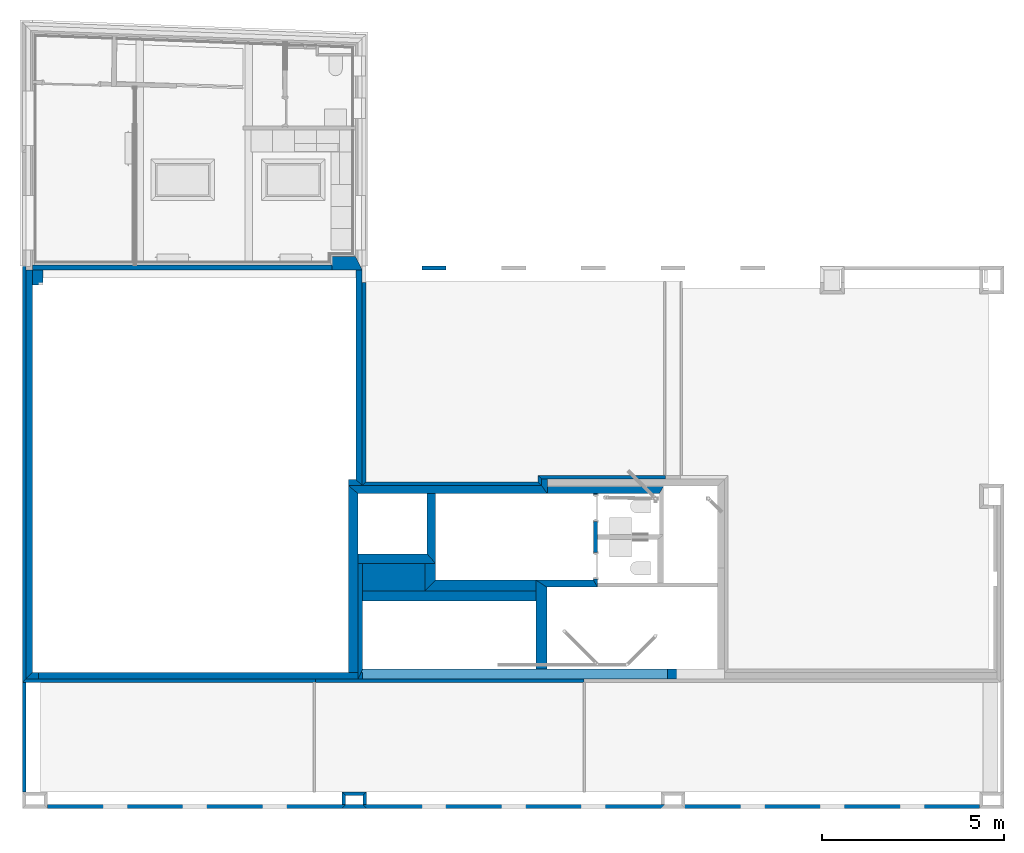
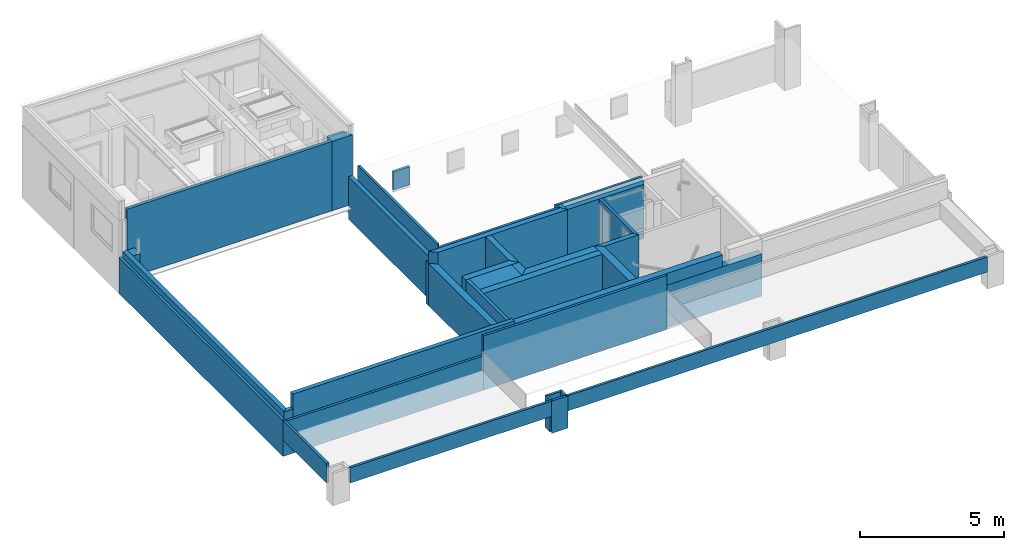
# One storey, part 2 of 22: 38 walls, 2 openings.
"""IFC2X3 building model written with IfcOpenShell, lengths in metres."""

from ifc_helpers import new_model, entity, si_unit, converted_unit, derived_unit, money_unit, direction, frame, frame_2d, origin_with_axes, place, context, subcontext, project, spatial, polyline, rectangle, outline, extrude, material, layer, layer_set, layer_usage, type_object, element, save


model = new_model("IFC2X3")

# Units and contexts
model_context = context("Model", 3, precision=1e-05, world=origin_with_axes(), true_north=direction((0.0, 1.0)))
body_context = subcontext(model_context, "Body", "Model", "MODEL_VIEW", scale=1.0)
ifc_project = project(units=[si_unit("LENGTHUNIT", "METRE"), si_unit("AREAUNIT", "SQUARE_METRE"), si_unit("VOLUMEUNIT", "CUBIC_METRE"), si_unit("ABSORBEDDOSEUNIT", "GRAY"), si_unit("AMOUNTOFSUBSTANCEUNIT", "MOLE"), si_unit("DOSEEQUIVALENTUNIT", "SIEVERT"), si_unit("ELECTRICCAPACITANCEUNIT", "FARAD"), si_unit("ELECTRICCHARGEUNIT", "COULOMB"), si_unit("ELECTRICCONDUCTANCEUNIT", "SIEMENS"), si_unit("ELECTRICCURRENTUNIT", "AMPERE"), si_unit("ELECTRICRESISTANCEUNIT", "OHM"), si_unit("ELECTRICVOLTAGEUNIT", "VOLT"), si_unit("ENERGYUNIT", "JOULE"), si_unit("FORCEUNIT", "NEWTON"), si_unit("FREQUENCYUNIT", "HERTZ"), si_unit("ILLUMINANCEUNIT", "LUX"), si_unit("INDUCTANCEUNIT", "HENRY"), si_unit("LUMINOUSFLUXUNIT", "LUMEN"), si_unit("LUMINOUSINTENSITYUNIT", "CANDELA"), si_unit("MAGNETICFLUXDENSITYUNIT", "TESLA"), si_unit("MAGNETICFLUXUNIT", "WEBER"), si_unit("MASSUNIT", "GRAM"), converted_unit("PLANEANGLEUNIT", "degree", entity("IfcReal", 0.0174532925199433), si_unit("PLANEANGLEUNIT", "RADIAN"), dimensions=[0, 0, 0, 0, 0, 0, 0]), si_unit("POWERUNIT", "WATT"), si_unit("PRESSUREUNIT", "PASCAL"), si_unit("RADIOACTIVITYUNIT", "BECQUEREL"), si_unit("SOLIDANGLEUNIT", "STERADIAN"), si_unit("THERMODYNAMICTEMPERATUREUNIT", "KELVIN"), si_unit("TIMEUNIT", "SECOND"), derived_unit("ACCELERATIONUNIT", [(si_unit("LENGTHUNIT", "METRE"), 1), (si_unit("TIMEUNIT", "SECOND"), -2)]), derived_unit("ANGULARVELOCITYUNIT", [(converted_unit("PLANEANGLEUNIT", "degree", entity("IfcReal", 0.0174532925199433), si_unit("PLANEANGLEUNIT", "RADIAN"), dimensions=[0, 0, 0, 0, 0, 0, 0]), 1), (si_unit("TIMEUNIT", "SECOND"), -1)]), derived_unit("CURVATUREUNIT", [(converted_unit("PLANEANGLEUNIT", "degree", entity("IfcReal", 0.0174532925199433), si_unit("PLANEANGLEUNIT", "RADIAN"), dimensions=[0, 0, 0, 0, 0, 0, 0]), 1), (si_unit("LENGTHUNIT", "METRE"), -1)]), derived_unit("DYNAMICVISCOSITYUNIT", [(si_unit("PRESSUREUNIT", "PASCAL"), 1), (si_unit("TIMEUNIT", "SECOND"), 1)]), derived_unit("HEATFLUXDENSITYUNIT", [(si_unit("POWERUNIT", "WATT"), 1), (si_unit("LENGTHUNIT", "METRE"), -2)]), derived_unit("HEATINGVALUEUNIT", [(si_unit("ENERGYUNIT", "JOULE"), 1), (si_unit("MASSUNIT", "GRAM"), -1)]), derived_unit("INTEGERCOUNTRATEUNIT", [(si_unit("TIMEUNIT", "SECOND"), -1)]), derived_unit("IONCONCENTRATIONUNIT", [(si_unit("MASSUNIT", "GRAM"), 1), (si_unit("VOLUMEUNIT", "CUBIC_METRE"), -1)]), derived_unit("ISOTHERMALMOISTURECAPACITYUNIT", [(si_unit("VOLUMEUNIT", "CUBIC_METRE"), 1), (si_unit("MASSUNIT", "GRAM"), -1)]), derived_unit("KINEMATICVISCOSITYUNIT", [(si_unit("AREAUNIT", "SQUARE_METRE"), 1), (si_unit("TIMEUNIT", "SECOND"), -1)]), derived_unit("LINEARFORCEUNIT", [(si_unit("FORCEUNIT", "NEWTON"), 1), (si_unit("LENGTHUNIT", "METRE"), -1)]), derived_unit("LINEARMOMENTUNIT", [(si_unit("FORCEUNIT", "NEWTON"), 1), (si_unit("LENGTHUNIT", "METRE"), -1)]), derived_unit("LINEARSTIFFNESSUNIT", [(si_unit("FORCEUNIT", "NEWTON"), 1), (si_unit("LENGTHUNIT", "METRE"), -1)]), derived_unit("LINEARVELOCITYUNIT", [(si_unit("LENGTHUNIT", "METRE"), 1), (si_unit("TIMEUNIT", "SECOND"), -1)]), derived_unit("LUMINOUSINTENSITYDISTRIBUTIONUNIT", [(si_unit("LUMINOUSINTENSITYUNIT", "CANDELA"), 1), (si_unit("LUMINOUSFLUXUNIT", "LUMEN"), -1)]), derived_unit("MASSDENSITYUNIT", [(si_unit("MASSUNIT", "GRAM"), 1), (si_unit("VOLUMEUNIT", "CUBIC_METRE"), -1)]), derived_unit("MASSFLOWRATEUNIT", [(si_unit("MASSUNIT", "GRAM"), 1), (si_unit("TIMEUNIT", "SECOND"), -1)]), derived_unit("MASSPERLENGTHUNIT", [(si_unit("MASSUNIT", "GRAM"), 1), (si_unit("LENGTHUNIT", "METRE"), -1)]), derived_unit("MODULUSOFELASTICITYUNIT", [(si_unit("FORCEUNIT", "NEWTON"), 1), (si_unit("AREAUNIT", "SQUARE_METRE"), -1)]), derived_unit("MODULUSOFLINEARSUBGRADEREACTIONUNIT", [(si_unit("FORCEUNIT", "NEWTON"), 1), (si_unit("LENGTHUNIT", "METRE"), -2)]), derived_unit("MODULUSOFROTATIONALSUBGRADEREACTIONUNIT", [(si_unit("FORCEUNIT", "NEWTON"), 1), (si_unit("LENGTHUNIT", "METRE"), 1)]), derived_unit("MODULUSOFSUBGRADEREACTIONUNIT", [(si_unit("FORCEUNIT", "NEWTON"), 1), (si_unit("VOLUMEUNIT", "CUBIC_METRE"), -1)]), derived_unit("MOISTUREDIFFUSIVITYUNIT", [(si_unit("VOLUMEUNIT", "CUBIC_METRE"), 1), (si_unit("TIMEUNIT", "SECOND"), -1)]), derived_unit("MOLECULARWEIGHTUNIT", [(si_unit("MASSUNIT", "GRAM"), 1), (si_unit("AMOUNTOFSUBSTANCEUNIT", "MOLE"), -1)]), derived_unit("PLANARFORCEUNIT", [(si_unit("FORCEUNIT", "NEWTON"), 1), (si_unit("LENGTHUNIT", "METRE"), -2)]), derived_unit("ROTATIONALFREQUENCYUNIT", [(si_unit("TIMEUNIT", "SECOND"), -1)]), derived_unit("ROTATIONALMASSUNIT", [(si_unit("MASSUNIT", "GRAM"), 1), (si_unit("LENGTHUNIT", "METRE"), 2)]), derived_unit("ROTATIONALSTIFFNESSUNIT", [(si_unit("FORCEUNIT", "NEWTON"), 1), (si_unit("LENGTHUNIT", "METRE"), 1), (converted_unit("PLANEANGLEUNIT", "degree", entity("IfcReal", 0.0174532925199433), si_unit("PLANEANGLEUNIT", "RADIAN"), dimensions=[0, 0, 0, 0, 0, 0, 0]), -1)]), derived_unit("SECTIONAREAINTEGRALUNIT", [(si_unit("LENGTHUNIT", "METRE"), 5)]), derived_unit("SECTIONMODULUSUNIT", [(si_unit("LENGTHUNIT", "METRE"), 3)]), derived_unit("SHEARMODULUSUNIT", [(si_unit("FORCEUNIT", "NEWTON"), 1), (si_unit("AREAUNIT", "SQUARE_METRE"), -1)]), derived_unit("SOUNDPOWERUNIT", [(si_unit("ENERGYUNIT", "JOULE"), 1), (si_unit("TIMEUNIT", "SECOND"), -1)]), derived_unit("SPECIFICHEATCAPACITYUNIT", [(si_unit("FORCEUNIT", "NEWTON"), 1), (si_unit("MASSUNIT", "GRAM"), -1), (si_unit("THERMODYNAMICTEMPERATUREUNIT", "KELVIN"), -1)]), derived_unit("TEMPERATUREGRADIENTUNIT", [(si_unit("THERMODYNAMICTEMPERATUREUNIT", "KELVIN"), 1), (si_unit("LENGTHUNIT", "METRE"), -1)]), derived_unit("THERMALADMITTANCEUNIT", [(si_unit("POWERUNIT", "WATT"), 1), (si_unit("AREAUNIT", "SQUARE_METRE"), -1), (si_unit("THERMODYNAMICTEMPERATUREUNIT", "KELVIN"), -1)]), derived_unit("THERMALCONDUCTANCEUNIT", [(si_unit("POWERUNIT", "WATT"), 1), (si_unit("LENGTHUNIT", "METRE"), -1), (si_unit("THERMODYNAMICTEMPERATUREUNIT", "KELVIN"), -1)]), derived_unit("THERMALEXPANSIONCOEFFICIENTUNIT", [(si_unit("THERMODYNAMICTEMPERATUREUNIT", "KELVIN"), -1)]), derived_unit("THERMALRESISTANCEUNIT", [(si_unit("AREAUNIT", "SQUARE_METRE"), 1), (si_unit("POWERUNIT", "WATT"), -1)]), derived_unit("THERMALTRANSMITTANCEUNIT", [(si_unit("POWERUNIT", "WATT"), 1), (si_unit("AREAUNIT", "SQUARE_METRE"), -1), (si_unit("THERMODYNAMICTEMPERATUREUNIT", "KELVIN"), -1)]), derived_unit("TORQUEUNIT", [(si_unit("FORCEUNIT", "NEWTON"), 1), (si_unit("LENGTHUNIT", "METRE"), 1)]), derived_unit("VAPORPERMEABILITYUNIT", [(si_unit("MASSUNIT", "GRAM"), 1), (si_unit("TIMEUNIT", "SECOND"), -1)]), derived_unit("VOLUMETRICFLOWRATEUNIT", [(si_unit("VOLUMEUNIT", "CUBIC_METRE"), 1), (si_unit("TIMEUNIT", "SECOND"), -1)]), derived_unit("WARPINGCONSTANTUNIT", [(si_unit("LENGTHUNIT", "METRE"), 6)]), derived_unit("WARPINGMOMENTUNIT", [(si_unit("FORCEUNIT", "NEWTON"), 1), (si_unit("LENGTHUNIT", "METRE"), 2)]), money_unit("GBP")], contexts=[model_context])

# Site, building, storey
site_placement = place(None, origin_with_axes())
site = spatial("IfcSite", under=ifc_project, at=site_placement, Name="Site", CompositionType="ELEMENT")
building_placement = place(site_placement, origin_with_axes())
building = spatial("IfcBuilding", under=site, at=building_placement, Name="Building01", CompositionType="ELEMENT")
storey_placement = place(building_placement, frame((0.0, 0.0, 2.6), z_axis=(0.0, 0.0, 1.0), x_axis=(1.0, 0.0, 0.0)))
storey = spatial("IfcBuildingStorey", under=building, at=storey_placement, Name="MF", CompositionType="ELEMENT", Elevation=2.6)

# Walls
ifc_material_1 = material(Name="A_BSUK_WallsExternal_Brick")
ifc_layer_1 = layer(ifc_material_1, 0.1, ventilated=False)
ifc_layer_set_1 = layer_set([ifc_layer_1])
ifc_layer_usage_1 = layer_usage(ifc_layer_set_1, "AXIS2", "POSITIVE", 0.0)
wall_type_1 = type_object("IfcWallType", Name="A-Walls-ExternalBrick", PredefinedType="NOTDEFINED")
wall_1_placement = place(storey_placement, frame((8.79, -0.000329, 0.0), z_axis=(0.0, 0.0, 1.0), x_axis=(1.0, 0.0, 0.0)))
element("IfcWallStandardCase", 1, at=wall_1_placement, inside=storey, type_object=wall_type_1, material=ifc_layer_usage_1, Name="A-Walls-ExternalBrick", ObjectType="A-Walls-ExternalBrick", context=body_context, shape_type="SweptSolid", body=[
    extrude(outline(polyline([(0.57, 0.1), (0.1, 0.1), (0.0, 0.0), (0.67, 0.0), (0.57, 0.1)])), origin_with_axes(), (0.0, 0.0, 1.0), 1.37),
])
wall_2_placement = place(storey_placement, frame((9.46, 0.1, 0.0), z_axis=(0.0, 0.0, 1.0), x_axis=(0.0, 1.0, 0.0)))
element("IfcWallStandardCase", 2, at=wall_2_placement, inside=storey, type_object=wall_type_1, material=ifc_layer_usage_1, Name="A-Walls-ExternalBrick", ObjectType="A-Walls-ExternalBrick", context=body_context, shape_type="SweptSolid", body=[
    extrude(outline(polyline([(0.249338, 0.1), (0.0, 0.1), (0.0, 0.0), (0.349338, 0.0), (0.249338, 0.1)])), origin_with_axes(), (0.0, 0.0, 1.0), 1.37),
])
wall_3_placement = place(storey_placement, frame((9.46, 0.449338, 0.0), z_axis=(0.0, 0.0, 1.0), x_axis=(-1.0, 0.0, 0.0)))
element("IfcWallStandardCase", 3, at=wall_3_placement, inside=storey, type_object=wall_type_1, material=ifc_layer_usage_1, Name="A-Walls-ExternalBrick", ObjectType="A-Walls-ExternalBrick", context=body_context, shape_type="SweptSolid", body=[
    extrude(outline(polyline([(0.57, 0.1), (0.1, 0.1), (0.0, 0.0), (0.67, 0.0), (0.57, 0.1)])), origin_with_axes(), (0.0, 0.0, 1.0), 1.37),
])
wall_4_placement = place(storey_placement, frame((8.79, 0.449338, 0.0), z_axis=(0.0, 0.0, 1.0), x_axis=(0.0, -1.0, 0.0)))
element("IfcWallStandardCase", 4, at=wall_4_placement, inside=storey, type_object=wall_type_1, material=ifc_layer_usage_1, Name="A-Walls-ExternalBrick", ObjectType="A-Walls-ExternalBrick", context=body_context, shape_type="SweptSolid", body=[
    extrude(outline(polyline([(0.349338, 0.1), (0.1, 0.1), (0.0, 0.0), (0.349338, 0.0), (0.349338, 0.1)])), origin_with_axes(), (0.0, 0.0, 1.0), 1.37),
])
wall_5_placement = place(storey_placement, frame((0.7, 0.0, 0.725), z_axis=(0.0, 0.0, 1.0), x_axis=(1.0, 0.0, 0.0)))
element("IfcWallStandardCase", 5, at=wall_5_placement, inside=storey, type_object=wall_type_1, material=ifc_layer_usage_1, Name="A-Walls-ExternalBrick", ObjectType="A-Walls-ExternalBrick", context=body_context, shape_type="SweptSolid", body=[
    extrude(rectangle(XDim=25.61, YDim=0.1, at=frame_2d((12.805, 0.05), x_axis=(-1.0, 0.0))), origin_with_axes(), (0.0, 0.0, 1.0), 0.645),
])
wall_6_placement = place(storey_placement, frame((10.98, 14.9, 0.599759), z_axis=(0.0, 0.0, 1.0), x_axis=(1.0, 0.0, 0.0)))
element("IfcWallStandardCase", 6, at=wall_6_placement, inside=storey, type_object=wall_type_1, material=ifc_layer_usage_1, Name="A-Walls-ExternalBrick", ObjectType="A-Walls-ExternalBrick", context=body_context, shape_type="SweptSolid", body=[
    extrude(rectangle(XDim=0.67, YDim=0.1, at=frame_2d((0.335, -0.05), x_axis=(1.0, 0.0))), origin_with_axes(), (0.0, 0.0, 1.0), 0.770241),
])
wall_7_placement = place(storey_placement, frame((14.172347, 8.971346, 0.0), z_axis=(0.0, 0.0, 1.0), x_axis=(-1.0, 3.756e-05, 0.0)))
element("IfcWallStandardCase", 7, at=wall_7_placement, inside=storey, type_object=wall_type_1, material=ifc_layer_usage_1, Name="A-Walls-ExternalBrick", ObjectType="A-Walls-ExternalBrick", context=body_context, shape_type="SweptSolid", body=[
    extrude(outline(polyline([(4.829305, 0.1), (-0.1, 0.1), (0.0, 0.0), (4.729309, 0.0), (4.829305, 0.1)])), origin_with_axes(), (0.0, 0.0, 1.0), 2.3),
])
wall_8_placement = place(storey_placement, frame((9.343038, 14.45, 0.0), z_axis=(0.0, 0.0, 1.0), x_axis=(0.0, -1.0, 0.0)))
element("IfcWallStandardCase", 8, at=wall_8_placement, inside=storey, type_object=wall_type_1, material=ifc_layer_usage_1, Name="A-Walls-ExternalBrick", ObjectType="A-Walls-ExternalBrick", context=body_context, shape_type="SweptSolid", body=[
    extrude(outline(polyline([(5.478477, 0.1), (0.0, 0.1), (0.0, 0.0), (5.578473, 0.0), (5.478477, 0.1)])), origin_with_axes(), (0.0, 0.0, 1.0), 2.43),
])
wall_9_placement = place(storey_placement, frame((0.000679, 3.459332, 0.698), z_axis=(0.0, 0.0, 1.0), x_axis=(0.0, -1.0, 0.0)))
element("IfcWallStandardCase", 9, at=wall_9_placement, inside=storey, type_object=wall_type_1, material=ifc_layer_usage_1, Name="A-Walls-ExternalBrick", ObjectType="A-Walls-ExternalBrick", context=body_context, shape_type="SweptSolid", body=[
    extrude(rectangle(XDim=3.009665, YDim=0.1, at=frame_2d((1.504833, 0.05), x_axis=(-1.0, 0.0))), origin_with_axes(), (0.0, 0.0, 1.0), 0.832),
])
wall_10_placement = place(storey_placement, frame((0.000679, 3.459332, 0.0), z_axis=(0.0, 0.0, 1.0), x_axis=(1.0, 0.0, 0.0)))
element("IfcWallStandardCase", 10, at=wall_10_placement, inside=storey, type_object=wall_type_1, material=ifc_layer_usage_1, Name="A-Walls-ExternalBrick", ObjectType="A-Walls-ExternalBrick", context=body_context, shape_type="SweptSolid", body=[
    extrude(outline(polyline([(8.053415, 0.1), (0.1, 0.1), (0.0, 0.0), (8.053415, 0.0), (8.053415, 0.1)])), origin_with_axes(), (0.0, 0.0, 1.0), 1.46),
])
wall_11_placement = place(storey_placement, frame((8.054094, 3.459332, 0.0), z_axis=(0.0, 0.0, 1.0), x_axis=(1.0, 0.0, 0.0)))
element("IfcWallStandardCase", 11, at=wall_11_placement, inside=storey, type_object=wall_type_1, material=ifc_layer_usage_1, Name="A-Walls-ExternalBrick", ObjectType="A-Walls-ExternalBrick", context=body_context, shape_type="SweptSolid", body=[
    extrude(rectangle(XDim=7.384767, YDim=0.1, at=frame_2d((3.692383, 0.05), x_axis=(-1.0, 0.0))), origin_with_axes(), (0.0, 0.0, 1.0), 2.3),
])
wall_12_placement = place(storey_placement, frame((0.000679, 14.9, 0.0), z_axis=(0.0, 0.0, 1.0), x_axis=(0.0, -1.0, 0.0)))
element("IfcWallStandardCase", 12, at=wall_12_placement, inside=storey, type_object=wall_type_1, material=ifc_layer_usage_1, Name="A-Walls-ExternalBrick", ObjectType="A-Walls-ExternalBrick", context=body_context, shape_type="SweptSolid", body=[
    extrude(outline(polyline([(11.340668, 0.1), (0.0, 0.1), (0.0, 0.0), (11.440668, 0.0), (11.340668, 0.1)])), origin_with_axes(), (0.0, 0.0, 1.0), 1.53),
])
ifc_material_2 = material(Name="A_BSUK_WallsExternal_Block")
ifc_layer_2 = layer(ifc_material_2, 0.159, ventilated=False)
ifc_layer_set_2 = layer_set([ifc_layer_2])
ifc_layer_usage_2 = layer_usage(ifc_layer_set_2, "AXIS2", "POSITIVE", 0.0)
wall_type_2 = type_object("IfcWallType", Name="A-Walls-ExternalBlock", PredefinedType="NOTDEFINED")
wall_13_placement = place(storey_placement, frame((14.27235, 9.053146, 0.0), z_axis=(0.0, 0.0, 1.0), x_axis=(0.0, -1.0, 0.0)))
element("IfcWallStandardCase", 13, at=wall_13_placement, inside=storey, type_object=wall_type_2, material=ifc_layer_usage_2, Name="A-Walls-ExternalBlock", ObjectType="A-Walls-ExternalBlock", context=body_context, shape_type="SweptSolid", body=[
    extrude(outline(polyline([(0.405736, 0.159), (0.0, 0.159), (0.0, 0.0), (0.181736, 0.0), (0.405736, 0.159)])), origin_with_axes(), (0.0, 0.0, 1.0), 2.3),
])
ifc_layer_3 = layer(ifc_material_2, 0.224, ventilated=False)
ifc_layer_set_3 = layer_set([ifc_layer_3])
ifc_layer_usage_3 = layer_usage(ifc_layer_set_3, "AXIS2", "POSITIVE", 0.0)
wall_14_placement = place(storey_placement, frame((9.229999, 8.64741, 0.0), z_axis=(0.0, 0.0, 1.0), x_axis=(1.0, 0.0, 0.0)))
element("IfcWallStandardCase", 14, at=wall_14_placement, inside=storey, type_object=wall_type_2, material=ifc_layer_usage_3, Name="A-Walls-ExternalBlock", ObjectType="A-Walls-ExternalBlock", context=body_context, shape_type="SweptSolid", body=[
    extrude(outline(polyline([(5.042351, 0.224), (-0.264901, 0.224), (0.0, 0.0), (5.201351, 0.0), (5.042351, 0.224)])), origin_with_axes(), (0.0, 0.0, 1.0), 2.3),
])
ifc_layer_4 = layer(ifc_material_2, 0.17, ventilated=False)
ifc_layer_set_4 = layer_set([ifc_layer_4])
ifc_layer_usage_4 = layer_usage(ifc_layer_set_4, "AXIS2", "POSITIVE", 0.0)
wall_15_placement = place(storey_placement, frame((9.173127, 14.799918, 0.0), z_axis=(0.0, 0.0, 1.0), x_axis=(0.0, -1.0, 0.0)))
element("IfcWallStandardCase", 15, at=wall_15_placement, inside=storey, type_object=wall_type_2, material=ifc_layer_usage_4, Name="A-Walls-ExternalBlock", ObjectType="A-Walls-ExternalBlock", context=body_context, shape_type="SweptSolid", body=[
    extrude(outline(polyline([(5.928777, 0.17), (0.0, 0.17), (0.0, 0.0), (5.764777, 0.0), (5.928777, 0.17)])), origin_with_axes(), (0.0, 0.0, 1.0), 1.8),
])
ifc_layer_5 = layer(ifc_material_2, 0.164, ventilated=False)
ifc_layer_set_5 = layer_set([ifc_layer_5])
ifc_layer_usage_5 = layer_usage(ifc_layer_set_5, "AXIS2", "POSITIVE", 0.0)
wall_16_placement = place(storey_placement, frame((9.173127, 9.035141, 0.0), z_axis=(0.0, 0.0, 1.0), x_axis=(-1.0, 0.0, 0.0)))
element("IfcWallStandardCase", 16, at=wall_16_placement, inside=storey, type_object=wall_type_2, material=ifc_layer_usage_5, Name="A-Walls-ExternalBlock", ObjectType="A-Walls-ExternalBlock", context=body_context, shape_type="SweptSolid", body=[
    extrude(outline(polyline([(-0.17, 0.164), (0.0, 0.0), (0.207627, 0.0), (0.207627, 0.164), (-0.17, 0.164)])), origin_with_axes(), (0.0, 0.0, 1.0), 1.8),
])
ifc_layer_6 = layer(ifc_material_2, 0.264900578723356, ventilated=False)
ifc_layer_set_6 = layer_set([ifc_layer_6])
ifc_layer_usage_6 = layer_usage(ifc_layer_set_6, "AXIS2", "POSITIVE", 0.0)
wall_17_placement = place(storey_placement, frame((9.229999, 3.733332, 0.0), z_axis=(0.0, 0.0, 1.0), x_axis=(0.0, 1.0, 0.0)))
element("IfcWallStandardCase", 17, at=wall_17_placement, inside=storey, type_object=wall_type_2, material=ifc_layer_usage_6, Name="A-Walls-ExternalBlock", ObjectType="A-Walls-ExternalBlock", context=body_context, shape_type="SweptSolid", body=[
    extrude(outline(polyline([(5.138078, 0.264901), (0.0, 0.264901), (0.0, 0.0), (4.914078, 0.0), (5.138078, 0.264901)])), origin_with_axes(), (0.0, 0.0, 1.0), 1.8),
])
ifc_layer_7 = layer(ifc_material_2, 0.174, ventilated=False)
ifc_layer_set_7 = layer_set([ifc_layer_7])
ifc_layer_usage_7 = layer_usage(ifc_layer_set_7, "AXIS2", "POSITIVE", 0.0)
wall_18_placement = place(storey_placement, frame((9.354099, 3.733332, 0.0), z_axis=(0.0, 0.0, 1.0), x_axis=(-1.0, 0.0, 0.0)))
element("IfcWallStandardCase", 18, at=wall_18_placement, inside=storey, type_object=wall_type_2, material=ifc_layer_usage_7, Name="A-Walls-ExternalBlock", ObjectType="A-Walls-ExternalBlock", context=body_context, shape_type="SweptSolid", body=[
    extrude(rectangle(XDim=8.904103, YDim=0.174, at=frame_2d((4.452051, 0.087), x_axis=(-1.0, 0.0))), origin_with_axes(), (0.0, 0.0, 1.0), 2.43),
])
ifc_layer_8 = layer(ifc_material_2, 0.18, ventilated=False)
ifc_layer_set_8 = layer_set([ifc_layer_8])
ifc_layer_usage_8 = layer_usage(ifc_layer_set_8, "AXIS2", "POSITIVE", 0.0)
wall_19_placement = place(storey_placement, frame((0.280357, 3.733339, 0.0), z_axis=(0.0, 0.0, 1.0), x_axis=(3.756e-05, 1.0, 0.0)))
element("IfcWallStandardCase", 19, at=wall_19_placement, inside=storey, type_object=wall_type_2, material=ifc_layer_usage_8, Name="A-Walls-ExternalBlock", ObjectType="A-Walls-ExternalBlock", context=body_context, shape_type="SweptSolid", body=[
    extrude(outline(polyline([(11.066661, 0.18), (-0.173917, 0.18), (0.0, 0.0), (11.066661, 0.0), (11.066661, 0.18)])), origin_with_axes(), (0.0, 0.0, 1.0), 1.8),
])
ifc_layer_9 = layer(ifc_material_2, 0.284945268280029, ventilated=False)
ifc_layer_set_9 = layer_set([ifc_layer_9])
ifc_layer_usage_9 = layer_usage(ifc_layer_set_9, "AXIS2", "POSITIVE", 0.0)
wall_20_placement = place(storey_placement, frame((0.565702, 14.389942, 0.0), z_axis=(0.0, 0.0, 1.0), x_axis=(0.0, 1.0, 0.0)))
element("IfcWallStandardCase", 20, at=wall_20_placement, inside=storey, type_object=wall_type_2, material=ifc_layer_usage_9, Name="A-Walls-ExternalBlock", ObjectType="A-Walls-ExternalBlock", context=body_context, shape_type="SweptSolid", body=[
    extrude(rectangle(XDim=0.410058, YDim=0.284945, at=frame_2d((0.205029, 0.142473), x_axis=(-1.0, 0.0))), origin_with_axes(), (0.0, 0.0, 1.0), 1.8),
])
ifc_layer_10 = layer(ifc_material_2, 0.265, ventilated=False)
ifc_layer_set_10 = layer_set([ifc_layer_10])
ifc_layer_usage_10 = layer_usage(ifc_layer_set_10, "AXIS2", "POSITIVE", 0.0)
wall_21_placement = place(storey_placement, frame((9.354099, 3.558962, 0.0), z_axis=(0.0, 0.0, 1.0), x_axis=(1.0, 0.0, 0.0)))
element("IfcWallStandardCase", 21, at=wall_21_placement, inside=storey, type_object=wall_type_2, material=ifc_layer_usage_10, Name="A-Walls-ExternalBlock", ObjectType="A-Walls-ExternalBlock", context=body_context, shape_type="SweptSolid", body=[
    extrude(rectangle(XDim=0.265, YDim=9.948672, at=frame_2d((4.974336, 0.1325), x_axis=(0.0, -1.0))), origin_with_axes(), (0.0, 0.0, 1.0), 1.8),
])
ifc_layer_11 = layer(ifc_material_2, 0.205, ventilated=False)
ifc_layer_set_11 = layer_set([ifc_layer_11])
ifc_layer_usage_11 = layer_usage(ifc_layer_set_11, "AXIS2", "POSITIVE", 0.0)
wall_22_placement = place(storey_placement, frame((14.43135, 8.64741, 0.0), z_axis=(0.0, 0.0, 1.0), x_axis=(1.0, 0.0, 0.0)))
element("IfcWallStandardCase", 22, at=wall_22_placement, inside=storey, type_object=wall_type_2, material=ifc_layer_usage_11, Name="A-Walls-ExternalBlock", ObjectType="A-Walls-ExternalBlock", context=body_context, shape_type="SweptSolid", body=[
    extrude(outline(polyline([(3.195596, 0.205), (0.0, 0.205), (0.0, 0.0), (3.075596, 0.0), (3.195596, 0.205)])), origin_with_axes(), (0.0, 0.0, 1.0), 2.3),
])

# Wall, openings
ifc_layer_12 = layer(ifc_material_2, 0.118, ventilated=False)
ifc_layer_set_12 = layer_set([ifc_layer_12])
ifc_layer_usage_12 = layer_usage(ifc_layer_set_12, "AXIS2", "POSITIVE", 0.0)
wall_23_placement = place(storey_placement, frame((15.698265, 8.64741, 0.0), z_axis=(0.0, 0.0, 1.0), x_axis=(0.0, -1.0, 0.0)))
wall_23 = element("IfcWallStandardCase", 23, at=wall_23_placement, inside=storey, type_object=wall_type_2, material=ifc_layer_usage_12, Name="A-Walls-ExternalBlock", ObjectType="A-Walls-ExternalBlock", context=body_context, shape_type="SweptSolid", body=[
    extrude(outline(polyline([(2.570426, 0.118), (0.0, 0.118), (0.0, 0.0), (2.376426, 0.0), (2.570426, 0.118)])), origin_with_axes(), (0.0, 0.0, 1.0), 2.3),
])
opening_1_placement = place(wall_23_placement, frame((1.615426, 0.0, 0.0), z_axis=(0.0, 0.0, 1.0), x_axis=(1.0, 0.0, 0.0)))
element("IfcOpeningElement", 24, at=opening_1_placement, cuts=wall_23, Name="Opening", ObjectType="Opening", context=body_context, shape_type="SweptSolid", body=[
    extrude(rectangle(XDim=2.1, YDim=0.734, at=frame_2d((-0.367, 1.05), x_axis=(0.0, -1.0))), frame((0.0, 0.0, 0.0), z_axis=(0.0, 1.0, 0.0), x_axis=(-1.0, 0.0, 0.0)), (0.0, 0.0, 1.0), 0.118),
])
opening_2_placement = place(wall_23_placement, frame((0.027, 0.0, 0.0), z_axis=(0.0, 0.0, 1.0), x_axis=(1.0, 0.0, 0.0)))
element("IfcOpeningElement", 25, at=opening_2_placement, cuts=wall_23, Name="Opening", ObjectType="Opening", context=body_context, shape_type="SweptSolid", body=[
    extrude(rectangle(XDim=2.1, YDim=0.734, at=frame_2d((-0.367, 1.05), x_axis=(0.0, -1.0))), frame((0.0, 0.0, 0.0), z_axis=(0.0, 1.0, 0.0), x_axis=(-1.0, 0.0, 0.0)), (0.0, 0.0, 1.0), 0.118),
])

# Walls
ifc_layer_13 = layer(ifc_material_2, 0.194, ventilated=False)
ifc_layer_set_13 = layer_set([ifc_layer_13])
ifc_layer_usage_13 = layer_usage(ifc_layer_set_13, "AXIS2", "POSITIVE", 0.0)
wall_24_placement = place(storey_placement, frame((14.421434, 6.076984, 0.0), z_axis=(0.0, 0.0, 1.0), x_axis=(1.0, 0.0, 0.0)))
element("IfcWallStandardCase", 26, at=wall_24_placement, inside=storey, type_object=wall_type_2, material=ifc_layer_usage_13, Name="A-Walls-ExternalBlock", ObjectType="A-Walls-ExternalBlock", context=body_context, shape_type="SweptSolid", body=[
    extrude(outline(polyline([(1.276831, 0.194), (-0.3, 0.194), (0.0, 0.0), (1.394831, 0.0), (1.276831, 0.194)])), origin_with_axes(), (0.0, 0.0, 1.0), 2.3),
])
ifc_layer_14 = layer(ifc_material_2, 0.3, ventilated=False)
ifc_layer_set_14 = layer_set([ifc_layer_14])
ifc_layer_usage_14 = layer_usage(ifc_layer_set_14, "AXIS2", "POSITIVE", 0.0)
wall_25_placement = place(storey_placement, frame((14.421434, 3.823962, 0.0), z_axis=(0.0, 0.0, 1.0), x_axis=(0.0, 1.0, 0.0)))
element("IfcWallStandardCase", 27, at=wall_25_placement, inside=storey, type_object=wall_type_2, material=ifc_layer_usage_14, Name="A-Walls-ExternalBlock", ObjectType="A-Walls-ExternalBlock", context=body_context, shape_type="SweptSolid", body=[
    extrude(outline(polyline([(2.447022, 0.3), (0.0, 0.3), (0.0, 0.0), (2.253022, 0.0), (2.447022, 0.3)])), origin_with_axes(), (0.0, 0.0, 1.0), 2.3),
])
wall_26_placement = place(storey_placement, frame((14.459829, 6.270984, 0.0), z_axis=(0.0, 0.0, 1.0), x_axis=(-1.0, 0.0, 0.0)))
element("IfcWallStandardCase", 28, at=wall_26_placement, inside=storey, type_object=wall_type_2, material=ifc_layer_usage_14, Name="A-Walls-ExternalBlock", ObjectType="A-Walls-ExternalBlock", context=body_context, shape_type="SweptSolid", body=[
    extrude(outline(polyline([(3.397634, 0.3), (0.3, 0.3), (0.0, 0.0), (3.097634, 0.0), (3.397634, 0.3)])), origin_with_axes(), (0.0, 0.0, 1.0), 2.3),
])
wall_27_placement = place(storey_placement, frame((11.362195, 6.270984, 0.0), z_axis=(0.0, 0.0, 1.0), x_axis=(0.0, 1.0, 0.0)))
element("IfcWallStandardCase", 29, at=wall_27_placement, inside=storey, type_object=wall_type_2, material=ifc_layer_usage_14, Name="A-Walls-ExternalBlock", ObjectType="A-Walls-ExternalBlock", context=body_context, shape_type="SweptSolid", body=[
    extrude(outline(polyline([(0.454777, 0.3), (-0.3, 0.3), (0.0, 0.0), (0.454777, 0.0), (0.454777, 0.3)])), origin_with_axes(), (0.0, 0.0, 1.0), 2.3),
])
ifc_layer_15 = layer(ifc_material_2, 0.27793443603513, ventilated=False)
ifc_layer_set_15 = layer_set([ifc_layer_15])
ifc_layer_usage_15 = layer_usage(ifc_layer_set_15, "AXIS2", "POSITIVE", 0.0)
wall_28_placement = place(storey_placement, frame((14.121434, 5.970984, 0.0), z_axis=(0.0, 0.0, 1.0), x_axis=(-1.0, 0.0, 0.0)))
element("IfcWallStandardCase", 30, at=wall_28_placement, inside=storey, type_object=wall_type_2, material=ifc_layer_usage_15, Name="A-Walls-ExternalBlock", ObjectType="A-Walls-ExternalBlock", context=body_context, shape_type="SweptSolid", body=[
    extrude(rectangle(XDim=4.891435, YDim=0.277934, at=frame_2d((2.445717, 0.138967), x_axis=(-1.0, 0.0))), origin_with_axes(), (0.0, 0.0, 1.0), 2.3),
])
ifc_layer_16 = layer(ifc_material_2, 0.754777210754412, ventilated=False)
ifc_layer_set_16 = layer_set([ifc_layer_16])
ifc_layer_usage_16 = layer_usage(ifc_layer_set_16, "AXIS2", "POSITIVE", 0.0)
wall_29_placement = place(storey_placement, frame((11.062195, 6.725761, 0.0), z_axis=(0.0, 0.0, 1.0), x_axis=(-1.0, 0.0, 0.0)))
element("IfcWallStandardCase", 31, at=wall_29_placement, inside=storey, type_object=wall_type_2, material=ifc_layer_usage_16, Name="A-Walls-ExternalBlock", ObjectType="A-Walls-ExternalBlock", context=body_context, shape_type="SweptSolid", body=[
    extrude(rectangle(XDim=1.832195, YDim=0.754777, at=frame_2d((0.916098, 0.377389), x_axis=(-1.0, 0.0))), origin_with_axes(), (0.0, 0.0, 1.0), 2.3),
])
ifc_layer_17 = layer(ifc_material_2, 0.1, ventilated=False)
ifc_layer_set_17 = layer_set([ifc_layer_17])
ifc_layer_usage_17 = layer_usage(ifc_layer_set_17, "AXIS2", "POSITIVE", 0.0)
wall_30_placement = place(storey_placement, frame((14.172354, 9.153054, 0.0), z_axis=(0.0, 0.0, 1.0), x_axis=(-3.756e-05, -1.0, 0.0)))
element("IfcWallStandardCase", 32, at=wall_30_placement, inside=storey, type_object=wall_type_2, material=ifc_layer_usage_17, Name="A-Walls-ExternalBlock", ObjectType="A-Walls-ExternalBlock", context=body_context, shape_type="SweptSolid", body=[
    extrude(outline(polyline([(0.281708, 0.1), (0.1, 0.1), (0.0, 0.0), (0.181708, 0.0), (0.281708, 0.1)])), origin_with_axes(), (0.0, 0.0, 1.0), 2.3),
])
wall_31_placement = place(storey_placement, frame((17.685, 9.152922, 0.0), z_axis=(0.0, 0.0, 1.0), x_axis=(-1.0, 3.756e-05, 0.0)))
element("IfcWallStandardCase", 33, at=wall_31_placement, inside=storey, type_object=wall_type_2, material=ifc_layer_usage_17, Name="A-Walls-ExternalBlock", ObjectType="A-Walls-ExternalBlock", context=body_context, shape_type="SweptSolid", body=[
    extrude(outline(polyline([(3.412646, 0.1), (0.0, 0.1), (0.0, 0.0), (3.512646, 0.0), (3.412646, 0.1)])), origin_with_axes(), (0.0, 0.0, 1.0), 2.3),
])
ifc_layer_18 = layer(ifc_material_2, 0.13, ventilated=False)
ifc_layer_set_18 = layer_set([ifc_layer_18])
ifc_layer_usage_18 = layer_usage(ifc_layer_set_18, "AXIS2", "POSITIVE", 0.0)
wall_32_placement = place(storey_placement, frame((0.280772, 14.8, 0.585), z_axis=(0.0, 0.0, 1.0), x_axis=(1.0, 0.0, 0.0)))
element("IfcWallStandardCase", 34, at=wall_32_placement, inside=storey, type_object=wall_type_2, material=ifc_layer_usage_18, Name="A-Walls-ExternalBlock", ObjectType="A-Walls-ExternalBlock", context=body_context, shape_type="SweptSolid", body=[
    extrude(outline(polyline([(8.236121, 0.13), (5e-06, 0.13), (0.0, 0.0), (8.236121, 0.0), (8.236121, 0.13)])), origin_with_axes(), (0.0, 0.0, 1.0), 2.947),
])
ifc_layer_19 = layer(ifc_material_2, 0.368000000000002, ventilated=False)
ifc_layer_set_19 = layer_set([ifc_layer_19])
ifc_layer_usage_19 = layer_usage(ifc_layer_set_19, "AXIS2", "POSITIVE", 0.0)
wall_33_placement = place(storey_placement, frame((9.154265, 15.168, 0.585), z_axis=(0.0, 0.0, 1.0), x_axis=(-1.0, 0.0, 0.0)))
element("IfcWallStandardCase", 35, at=wall_33_placement, inside=storey, type_object=wall_type_2, material=ifc_layer_usage_19, Name="A-Walls-ExternalBlock", ObjectType="A-Walls-ExternalBlock", context=body_context, shape_type="SweptSolid", body=[
    extrude(outline(polyline([(0.637372, 0.368), (-0.189, 0.368), (0.0, 0.0), (0.637372, 0.0), (0.637372, 0.368)])), origin_with_axes(), (0.0, 0.0, 1.0), 2.947),
])
ifc_layer_20 = layer(ifc_material_2, 0.173917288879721, ventilated=False)
ifc_layer_set_20 = layer_set([ifc_layer_20])
ifc_layer_usage_20 = layer_usage(ifc_layer_set_20, "AXIS2", "POSITIVE", 0.0)
wall_34_placement = place(storey_placement, frame((0.449997, 3.733332, 0.0), z_axis=(0.0, 0.0, 1.0), x_axis=(-1.0, 3.756e-05, 0.0)))
element("IfcWallStandardCase", 36, at=wall_34_placement, inside=storey, type_object=wall_type_2, material=ifc_layer_usage_20, Name="A-Walls-ExternalBlock", ObjectType="A-Walls-ExternalBlock", context=body_context, shape_type="SweptSolid", body=[
    extrude(outline(polyline([(0.34964, 0.173917), (-7e-06, 0.173917), (0.0, 0.0), (0.16964, 0.0), (0.34964, 0.173917)])), origin_with_axes(), (0.0, 0.0, 1.0), 1.8),
])
wall_35_placement = place(storey_placement, frame((9.229999, 3.558962, 1.8), z_axis=(0.0, 0.0, 1.0), x_axis=(1.0, 0.0, 0.0)))
element("IfcWallStandardCase", 37, at=wall_35_placement, inside=storey, type_object=wall_type_2, material=ifc_layer_usage_10, Name="A-Walls-ExternalBlock", ObjectType="A-Walls-ExternalBlock", context=body_context, shape_type="SweptSolid", body=[
    extrude(outline(polyline([(0.1241, 0.265), (0.0, 0.0), (8.500001, 0.0), (8.500001, 0.265), (0.1241, 0.265)])), origin_with_axes(), (0.0, 0.0, 1.0), 0.5),
])
ifc_layer_21 = layer(ifc_material_2, 0.124099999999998, ventilated=False)
ifc_layer_set_21 = layer_set([ifc_layer_21])
ifc_layer_usage_21 = layer_usage(ifc_layer_set_21, "AXIS2", "POSITIVE", 0.0)
wall_36_placement = place(storey_placement, frame((9.354099, 3.823962, 0.0), z_axis=(0.0, 0.0, 1.0), x_axis=(0.0, 1.0, 0.0)))
element("IfcWallStandardCase", 38, at=wall_36_placement, inside=storey, type_object=wall_type_2, material=ifc_layer_usage_21, Name="A-Walls-ExternalBlock", ObjectType="A-Walls-ExternalBlock", context=body_context, shape_type="SweptSolid", body=[
    extrude(outline(polyline([(2.9018, 0.1241), (-0.265, 0.1241), (0.0, 0.0), (2.9018, 0.0), (2.9018, 0.1241)])), origin_with_axes(), (0.0, 0.0, 1.0), 2.3),
])
ifc_material_3 = material(Name="A_BSUK_WallsInternal_Block")
ifc_layer_22 = layer(ifc_material_3, 0.232194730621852, ventilated=False)
ifc_layer_set_22 = layer_set([ifc_layer_22])
ifc_layer_usage_22 = layer_usage(ifc_layer_set_22, "AXIS2", "POSITIVE", 0.0)
wall_type_3 = type_object("IfcWallType", Name="A-Walls-InternalBlock", PredefinedType="NOTDEFINED")
wall_37_placement = place(storey_placement, frame((11.130001, 8.64741, 0.0), z_axis=(0.0, 0.0, 1.0), x_axis=(0.0, -1.0, 0.0)))
element("IfcWallStandardCase", 39, at=wall_37_placement, inside=storey, type_object=wall_type_3, material=ifc_layer_usage_22, Name="A-Walls-InternalBlock", ObjectType="A-Walls-InternalBlock", context=body_context, shape_type="SweptSolid", body=[
    extrude(outline(polyline([(1.921649, 0.232195), (0.0, 0.232195), (0.0, 0.0), (1.657649, 0.0), (1.921649, 0.232195)])), origin_with_axes(), (0.0, 0.0, 1.0), 2.3),
])
ifc_layer_23 = layer(ifc_material_3, 0.264, ventilated=False)
ifc_layer_set_23 = layer_set([ifc_layer_23])
ifc_layer_usage_23 = layer_usage(ifc_layer_set_23, "AXIS2", "POSITIVE", 0.0)
wall_38_placement = place(storey_placement, frame((11.130001, 6.989761, 0.0), z_axis=(0.0, 0.0, 1.0), x_axis=(-1.0, 0.0, 0.0)))
element("IfcWallStandardCase", 40, at=wall_38_placement, inside=storey, type_object=wall_type_3, material=ifc_layer_usage_23, Name="A-Walls-InternalBlock", ObjectType="A-Walls-InternalBlock", context=body_context, shape_type="SweptSolid", body=[
    extrude(outline(polyline([(1.900001, 0.264), (-0.232195, 0.264), (0.0, 0.0), (1.900001, 0.0), (1.900001, 0.264)])), origin_with_axes(), (0.0, 0.0, 1.0), 2.3),
])

save(model, "model.ifc")
